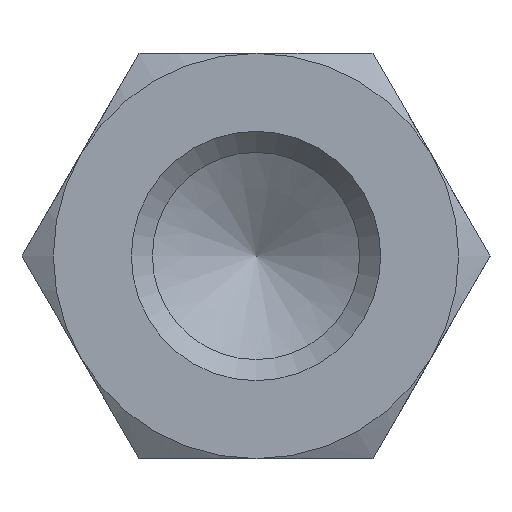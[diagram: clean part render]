
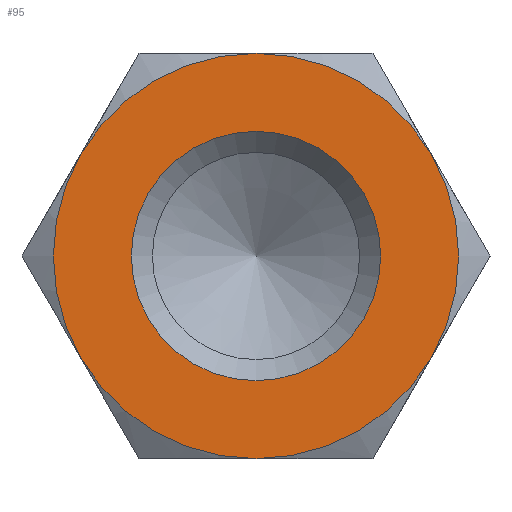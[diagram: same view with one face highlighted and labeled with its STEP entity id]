
A CAD part, left-side view. The second image highlights one B-rep face of the part: STEP entity #95.
In plain terms, the highlighted planar face has unit normal (-1, 0, 0).
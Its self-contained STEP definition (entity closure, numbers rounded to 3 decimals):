
#95 = ADVANCED_FACE( '', ( #147, #148 ), #149, .F. );
#147 = FACE_OUTER_BOUND( '', #206, .T. );
#148 = FACE_BOUND( '', #207, .T. );
#149 = PLANE( '', #208 );
#206 = EDGE_LOOP( '', ( #356, #357, #358, #359, #360, #361 ) );
#207 = EDGE_LOOP( '', ( #362 ) );
#208 = AXIS2_PLACEMENT_3D( '', #363, #364, #365 );
#356 = ORIENTED_EDGE( '', *, *, #440, .F. );
#357 = ORIENTED_EDGE( '', *, *, #425, .F. );
#358 = ORIENTED_EDGE( '', *, *, #441, .F. );
#359 = ORIENTED_EDGE( '', *, *, #437, .F. );
#360 = ORIENTED_EDGE( '', *, *, #442, .F. );
#361 = ORIENTED_EDGE( '', *, *, #443, .F. );
#362 = ORIENTED_EDGE( '', *, *, #439, .T. );
#363 = CARTESIAN_POINT( '', ( -25., 0., 0. ) );
#364 = DIRECTION( '', ( 1., 0., 0. ) );
#365 = DIRECTION( '', ( 0., 0., -1. ) );
#425 = EDGE_CURVE( '', #495, #493, #497, .T. );
#437 = EDGE_CURVE( '', #447, #506, #513, .T. );
#439 = EDGE_CURVE( '', #516, #516, #517, .T. );
#440 = EDGE_CURVE( '', #493, #486, #518, .T. );
#441 = EDGE_CURVE( '', #506, #495, #519, .T. );
#442 = EDGE_CURVE( '', #481, #447, #520, .T. );
#443 = EDGE_CURVE( '', #486, #481, #521, .T. );
#447 = VERTEX_POINT( '', #525 );
#481 = VERTEX_POINT( '', #607 );
#486 = VERTEX_POINT( '', #623 );
#493 = VERTEX_POINT( '', #650 );
#495 = VERTEX_POINT( '', #657 );
#497 = CIRCLE( '', #664, 6.5 );
#506 = VERTEX_POINT( '', #690 );
#513 = CIRCLE( '', #733, 6.5 );
#516 = VERTEX_POINT( '', #736 );
#517 = CIRCLE( '', #737, 4. );
#518 = CIRCLE( '', #738, 6.5 );
#519 = CIRCLE( '', #739, 6.5 );
#520 = CIRCLE( '', #740, 6.5 );
#521 = CIRCLE( '', #741, 6.5 );
#525 = CARTESIAN_POINT( '', ( -25., -5.629, 3.25 ) );
#607 = CARTESIAN_POINT( '', ( -25., 0., 6.5 ) );
#623 = CARTESIAN_POINT( '', ( -25., 5.629, 3.25 ) );
#650 = CARTESIAN_POINT( '', ( -25., 5.629, -3.25 ) );
#657 = CARTESIAN_POINT( '', ( -25., 0., -6.5 ) );
#664 = AXIS2_PLACEMENT_3D( '', #776, #777, #778 );
#690 = CARTESIAN_POINT( '', ( -25., -5.629, -3.25 ) );
#733 = AXIS2_PLACEMENT_3D( '', #781, #782, #783 );
#736 = CARTESIAN_POINT( '', ( -25., 4., 0. ) );
#737 = AXIS2_PLACEMENT_3D( '', #787, #788, #789 );
#738 = AXIS2_PLACEMENT_3D( '', #790, #791, #792 );
#739 = AXIS2_PLACEMENT_3D( '', #793, #794, #795 );
#740 = AXIS2_PLACEMENT_3D( '', #796, #797, #798 );
#741 = AXIS2_PLACEMENT_3D( '', #799, #800, #801 );
#776 = CARTESIAN_POINT( '', ( -25., 0., 0. ) );
#777 = DIRECTION( '', ( 1., 0., 0. ) );
#778 = DIRECTION( '', ( 0., 0., -1. ) );
#781 = CARTESIAN_POINT( '', ( -25., 0., 0. ) );
#782 = DIRECTION( '', ( 1., 0., 0. ) );
#783 = DIRECTION( '', ( 0., 0., -1. ) );
#787 = CARTESIAN_POINT( '', ( -25., 0., 0. ) );
#788 = DIRECTION( '', ( 1., 0., 0. ) );
#789 = DIRECTION( '', ( 0., 1., 0. ) );
#790 = CARTESIAN_POINT( '', ( -25., 0., 0. ) );
#791 = DIRECTION( '', ( 1., 0., 0. ) );
#792 = DIRECTION( '', ( 0., 0., -1. ) );
#793 = CARTESIAN_POINT( '', ( -25., 0., 0. ) );
#794 = DIRECTION( '', ( 1., 0., 0. ) );
#795 = DIRECTION( '', ( 0., 0., -1. ) );
#796 = CARTESIAN_POINT( '', ( -25., 0., 0. ) );
#797 = DIRECTION( '', ( 1., 0., 0. ) );
#798 = DIRECTION( '', ( 0., 0., -1. ) );
#799 = CARTESIAN_POINT( '', ( -25., 0., 0. ) );
#800 = DIRECTION( '', ( 1., 0., 0. ) );
#801 = DIRECTION( '', ( 0., 0., -1. ) );
